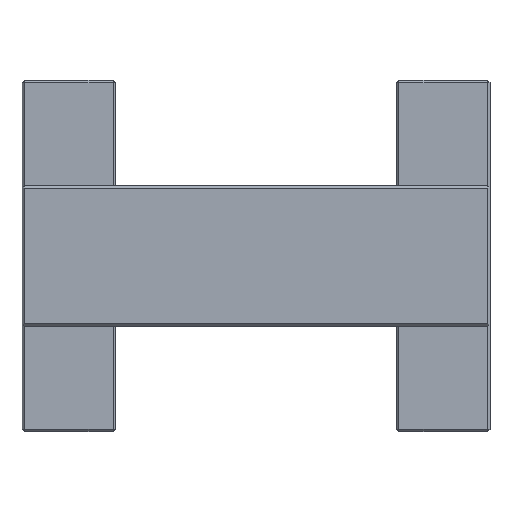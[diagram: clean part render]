
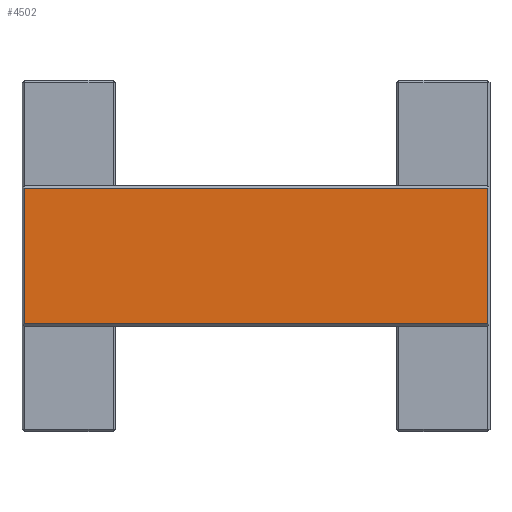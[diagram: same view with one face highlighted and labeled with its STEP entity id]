
A CAD part, top view. The second image highlights one B-rep face of the part: STEP entity #4502.
In plain terms, the highlighted planar face has unit normal (0, 0, 1).
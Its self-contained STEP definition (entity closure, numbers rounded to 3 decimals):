
#3793 = PLANE('',#3794);
#3794 = AXIS2_PLACEMENT_3D('',#3795,#3796,#3797);
#3795 = CARTESIAN_POINT('',(1.,90.,53.));
#3796 = DIRECTION('',(0.707,0.,-0.707));
#3797 = DIRECTION('',(0.,1.,0.));
#4131 = VERTEX_POINT('',#4132);
#4132 = CARTESIAN_POINT('',(2.,92.,54.));
#4155 = VERTEX_POINT('',#4156);
#4156 = CARTESIAN_POINT('',(2.,208.,54.));
#4177 = EDGE_CURVE('',#4131,#4155,#4178,.T.);
#4178 = SURFACE_CURVE('',#4179,(#4183,#4190),.PCURVE_S1.);
#4179 = LINE('',#4180,#4181);
#4180 = CARTESIAN_POINT('',(2.,90.,54.));
#4181 = VECTOR('',#4182,1.);
#4182 = DIRECTION('',(0.,1.,0.));
#4183 = PCURVE('',#3793,#4184);
#4184 = DEFINITIONAL_REPRESENTATION('',(#4185),#4189);
#4185 = LINE('',#4186,#4187);
#4186 = CARTESIAN_POINT('',(0.,1.414));
#4187 = VECTOR('',#4188,1.);
#4188 = DIRECTION('',(1.,0.));
#4189 = ( GEOMETRIC_REPRESENTATION_CONTEXT(2) 
PARAMETRIC_REPRESENTATION_CONTEXT() REPRESENTATION_CONTEXT('2D SPACE',''
  ) );
#4190 = PCURVE('',#4191,#4196);
#4191 = PLANE('',#4192);
#4192 = AXIS2_PLACEMENT_3D('',#4193,#4194,#4195);
#4193 = CARTESIAN_POINT('',(0.,90.,54.));
#4194 = DIRECTION('',(0.,0.,1.));
#4195 = DIRECTION('',(1.,0.,0.));
#4196 = DEFINITIONAL_REPRESENTATION('',(#4197),#4201);
#4197 = LINE('',#4198,#4199);
#4198 = CARTESIAN_POINT('',(2.,0.));
#4199 = VECTOR('',#4200,1.);
#4200 = DIRECTION('',(0.,1.));
#4201 = ( GEOMETRIC_REPRESENTATION_CONTEXT(2) 
PARAMETRIC_REPRESENTATION_CONTEXT() REPRESENTATION_CONTEXT('2D SPACE',''
  ) );
#4224 = PLANE('',#4225);
#4225 = AXIS2_PLACEMENT_3D('',#4226,#4227,#4228);
#4226 = CARTESIAN_POINT('',(0.,91.,53.));
#4227 = DIRECTION('',(0.,0.707,-0.707));
#4228 = DIRECTION('',(-1.,-0.,-0.));
#4278 = PLANE('',#4279);
#4279 = AXIS2_PLACEMENT_3D('',#4280,#4281,#4282);
#4280 = CARTESIAN_POINT('',(0.,209.,53.));
#4281 = DIRECTION('',(0.,0.707,0.707));
#4282 = DIRECTION('',(-1.,-0.,0.));
#4438 = PLANE('',#4439);
#4439 = AXIS2_PLACEMENT_3D('',#4440,#4441,#4442);
#4440 = CARTESIAN_POINT('',(399.,90.,53.));
#4441 = DIRECTION('',(0.707,0.,0.707));
#4442 = DIRECTION('',(-0.,1.,0.));
#4502 = ADVANCED_FACE('',(#4503),#4191,.T.);
#4503 = FACE_BOUND('',#4504,.T.);
#4504 = EDGE_LOOP('',(#4505,#4528,#4551,#4572));
#4505 = ORIENTED_EDGE('',*,*,#4506,.T.);
#4506 = EDGE_CURVE('',#4131,#4507,#4509,.T.);
#4507 = VERTEX_POINT('',#4508);
#4508 = CARTESIAN_POINT('',(398.,92.,54.));
#4509 = SURFACE_CURVE('',#4510,(#4514,#4521),.PCURVE_S1.);
#4510 = LINE('',#4511,#4512);
#4511 = CARTESIAN_POINT('',(0.,92.,54.));
#4512 = VECTOR('',#4513,1.);
#4513 = DIRECTION('',(1.,0.,0.));
#4514 = PCURVE('',#4191,#4515);
#4515 = DEFINITIONAL_REPRESENTATION('',(#4516),#4520);
#4516 = LINE('',#4517,#4518);
#4517 = CARTESIAN_POINT('',(0.,2.));
#4518 = VECTOR('',#4519,1.);
#4519 = DIRECTION('',(1.,0.));
#4520 = ( GEOMETRIC_REPRESENTATION_CONTEXT(2) 
PARAMETRIC_REPRESENTATION_CONTEXT() REPRESENTATION_CONTEXT('2D SPACE',''
  ) );
#4521 = PCURVE('',#4224,#4522);
#4522 = DEFINITIONAL_REPRESENTATION('',(#4523),#4527);
#4523 = LINE('',#4524,#4525);
#4524 = CARTESIAN_POINT('',(-0.,1.414));
#4525 = VECTOR('',#4526,1.);
#4526 = DIRECTION('',(-1.,0.));
#4527 = ( GEOMETRIC_REPRESENTATION_CONTEXT(2) 
PARAMETRIC_REPRESENTATION_CONTEXT() REPRESENTATION_CONTEXT('2D SPACE',''
  ) );
#4528 = ORIENTED_EDGE('',*,*,#4529,.T.);
#4529 = EDGE_CURVE('',#4507,#4530,#4532,.T.);
#4530 = VERTEX_POINT('',#4531);
#4531 = CARTESIAN_POINT('',(398.,208.,54.));
#4532 = SURFACE_CURVE('',#4533,(#4537,#4544),.PCURVE_S1.);
#4533 = LINE('',#4534,#4535);
#4534 = CARTESIAN_POINT('',(398.,90.,54.));
#4535 = VECTOR('',#4536,1.);
#4536 = DIRECTION('',(0.,1.,0.));
#4537 = PCURVE('',#4191,#4538);
#4538 = DEFINITIONAL_REPRESENTATION('',(#4539),#4543);
#4539 = LINE('',#4540,#4541);
#4540 = CARTESIAN_POINT('',(398.,0.));
#4541 = VECTOR('',#4542,1.);
#4542 = DIRECTION('',(0.,1.));
#4543 = ( GEOMETRIC_REPRESENTATION_CONTEXT(2) 
PARAMETRIC_REPRESENTATION_CONTEXT() REPRESENTATION_CONTEXT('2D SPACE',''
  ) );
#4544 = PCURVE('',#4438,#4545);
#4545 = DEFINITIONAL_REPRESENTATION('',(#4546),#4550);
#4546 = LINE('',#4547,#4548);
#4547 = CARTESIAN_POINT('',(0.,1.414));
#4548 = VECTOR('',#4549,1.);
#4549 = DIRECTION('',(1.,0.));
#4550 = ( GEOMETRIC_REPRESENTATION_CONTEXT(2) 
PARAMETRIC_REPRESENTATION_CONTEXT() REPRESENTATION_CONTEXT('2D SPACE',''
  ) );
#4551 = ORIENTED_EDGE('',*,*,#4552,.F.);
#4552 = EDGE_CURVE('',#4155,#4530,#4553,.T.);
#4553 = SURFACE_CURVE('',#4554,(#4558,#4565),.PCURVE_S1.);
#4554 = LINE('',#4555,#4556);
#4555 = CARTESIAN_POINT('',(0.,208.,54.));
#4556 = VECTOR('',#4557,1.);
#4557 = DIRECTION('',(1.,0.,0.));
#4558 = PCURVE('',#4191,#4559);
#4559 = DEFINITIONAL_REPRESENTATION('',(#4560),#4564);
#4560 = LINE('',#4561,#4562);
#4561 = CARTESIAN_POINT('',(0.,118.));
#4562 = VECTOR('',#4563,1.);
#4563 = DIRECTION('',(1.,0.));
#4564 = ( GEOMETRIC_REPRESENTATION_CONTEXT(2) 
PARAMETRIC_REPRESENTATION_CONTEXT() REPRESENTATION_CONTEXT('2D SPACE',''
  ) );
#4565 = PCURVE('',#4278,#4566);
#4566 = DEFINITIONAL_REPRESENTATION('',(#4567),#4571);
#4567 = LINE('',#4568,#4569);
#4568 = CARTESIAN_POINT('',(-0.,1.414));
#4569 = VECTOR('',#4570,1.);
#4570 = DIRECTION('',(-1.,0.));
#4571 = ( GEOMETRIC_REPRESENTATION_CONTEXT(2) 
PARAMETRIC_REPRESENTATION_CONTEXT() REPRESENTATION_CONTEXT('2D SPACE',''
  ) );
#4572 = ORIENTED_EDGE('',*,*,#4177,.F.);
